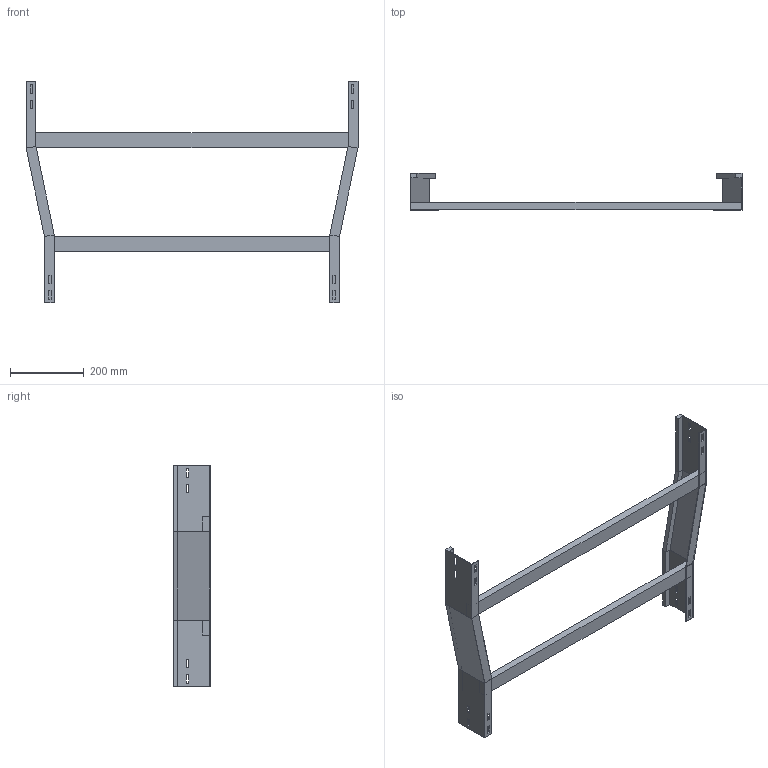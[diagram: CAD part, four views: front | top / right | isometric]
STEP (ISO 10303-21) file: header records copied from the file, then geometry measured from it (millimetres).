
FILE_DESCRIPTION (( 'STEP AP214' ), '1' );
FILE_NAME ('B2X20B8D900XX.step', '2025-09-02T17:15:43', ( '' ), ( '' ), 'SwSTEP 2.0', 'SolidWorks 2023', '' );
FILE_SCHEMA (( 'AUTOMOTIVE_DESIGN' ));
Length unit declared in the file: millimetre
Products named in the file (4): SPONDA RID. CENTRALE 900-800_H100; TRAVERSINO_900; B2X20B8D900XX; TRAVERSINO_800
Assembly tree (3 placements, depth 2):
  B2X20B8D900XX
    SPONDA RID. CENTRALE 900-800_H100
    TRAVERSINO_800
    TRAVERSINO_900
Bounding box: 900 x 100 x 600 mm (x, y, z)
Volume: 1900547.3 mm3; surface area: 552815.5 mm2
Topology: 4 solids, 4 shells, 128 faces, 328 edges, 208 vertices
Faces by surface type: plane 128
Entity records: 3950 total; most frequent: CARTESIAN_POINT 670, ORIENTED_EDGE 656, DIRECTION 596, LINE 328, EDGE_CURVE 328, VECTOR 328, VERTEX_POINT 208, EDGE_LOOP 160
